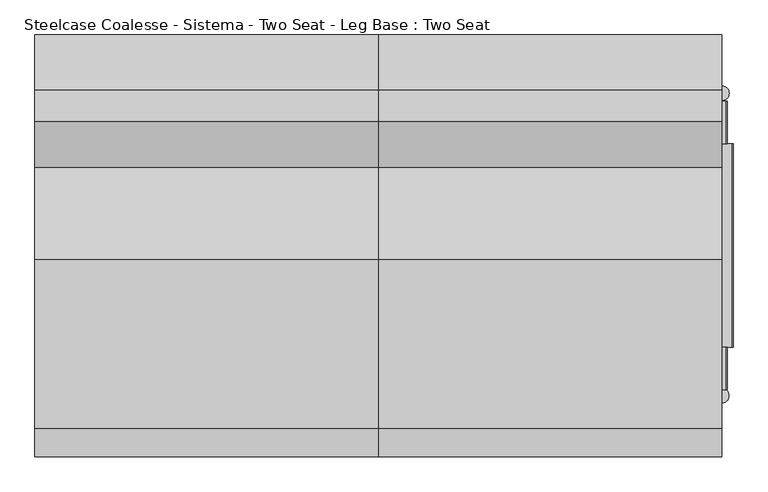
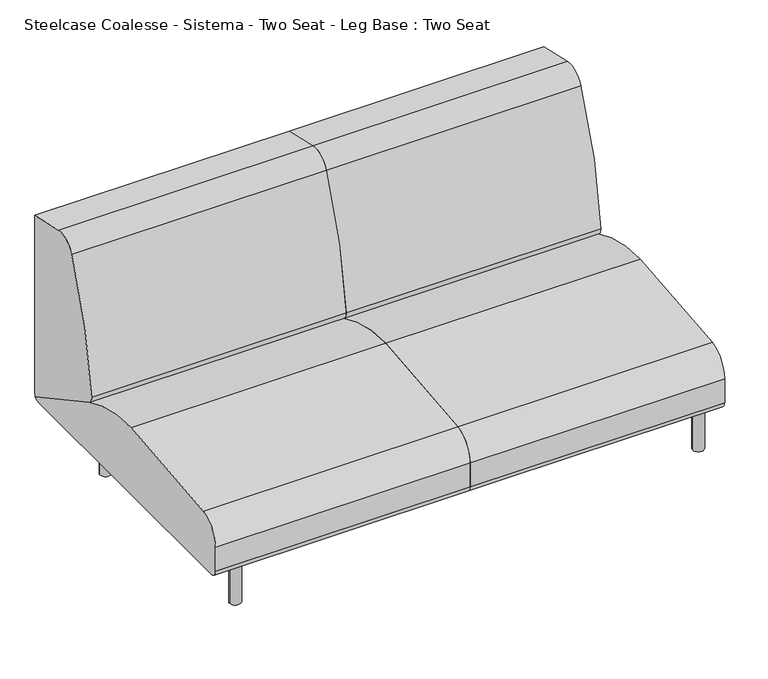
"""IFC4 building model written with IfcOpenShell, lengths in millimetres: furniture geometry, Steelcase Coalesse - Sistema - Two Seat - Leg Base : Two Seat."""

from ifc_helpers import new_model, si_unit, point, frame, frame_2d, origin, origin_with_axes, place, context, project, spatial, polyline, circle_curve, trimmed, segment, composite_curve, outline, extrude, source, transform, mapped, element, save


def steelcase_coalesse_sistema_two_seat_leg_base_two_seat_3f949230(model_context):
    return source(origin(), model_context, "Body", "SweptSolid", [
        extrude(outline(composite_curve([segment(trimmed(circle_curve(frame_2d((1123.8079447, 335.9943389)), 6.096), [point((1129.9039447, 335.9943389))], [point((1117.7119447, 335.9943389))], False, "CARTESIAN"), True, "CONTINUOUS"), segment(trimmed(circle_curve(frame_2d((1123.8079447, 335.9943389)), 6.096), [point((1117.7119447, 335.9943389))], [point((1129.9039447, 335.9943389))], False, "CARTESIAN"), True, "CONTINUOUS")], self_intersect=False)), origin_with_axes(), (0.0, 0.0, 1.0), 4.3662291),
        extrude(outline(composite_curve([segment(trimmed(circle_curve(frame_2d((1123.8079447, -327.2630889)), 6.096), [point((1129.9039447, -327.2630889))], [point((1117.7119447, -327.2630889))], False, "CARTESIAN"), True, "CONTINUOUS"), segment(trimmed(circle_curve(frame_2d((1123.8079447, -327.2630889)), 6.096), [point((1117.7119447, -327.2630889))], [point((1129.9039447, -327.2630889))], False, "CARTESIAN"), True, "CONTINUOUS")], self_intersect=False)), origin_with_axes(), (0.0, 0.0, 1.0), 4.3662291),
        extrude(outline(composite_curve([segment(polyline([(157.0399209, 1136.387797), (201.7356243, 1136.387797)]), True, "CONTINUOUS"), segment(trimmed(circle_curve(frame_2d((201.7356243, 1133.339797)), 3.048), [point((201.7356243, 1136.387797))], [point((204.7836243, 1133.339797))], False, "CARTESIAN"), True, "CONTINUOUS"), segment(polyline([(204.7836243, 1133.339797), (204.7836243, 1113.997621)]), True, "CONTINUOUS"), segment(trimmed(circle_curve(frame_2d((201.7356243, 1113.997621)), 3.048), [point((204.7836243, 1113.997621))], [point((201.7356243, 1110.949621))], False, "CARTESIAN"), True, "CONTINUOUS"), segment(polyline([(201.7356243, 1110.949621), (157.1249936, 1110.949621)]), True, "CONTINUOUS"), segment(trimmed(circle_curve(frame_2d((157.1249936, 1114.0826938)), 3.1330728), [point((157.1249936, 1110.949621))], [point((153.9919209, 1114.0826938))], False, "CARTESIAN"), True, "CONTINUOUS"), segment(polyline([(153.9919209, 1114.0826938), (153.9919209, 1133.339797)]), True, "CONTINUOUS"), segment(trimmed(circle_curve(frame_2d((157.0399209, 1133.339797)), 3.048), [point((153.9919209, 1133.339797))], [point((157.0399209, 1136.387797))], False, "CARTESIAN"), True, "CONTINUOUS")], self_intersect=False)), frame((0.0, 222.3519802, 0.0), z_axis=(0.0, 1.0, 0.0), x_axis=(0.0, 0.0, 1.0)), (0.0, 0.0, 1.0), 92.6273161),
        extrude(outline(composite_curve([segment(polyline([(157.0399209, 1136.387797), (201.7356243, 1136.387797)]), True, "CONTINUOUS"), segment(trimmed(circle_curve(frame_2d((201.7356243, 1133.339797)), 3.048), [point((201.7356243, 1136.387797))], [point((204.7836243, 1133.339797))], False, "CARTESIAN"), True, "CONTINUOUS"), segment(polyline([(204.7836243, 1133.339797), (204.7836243, 1113.997621)]), True, "CONTINUOUS"), segment(trimmed(circle_curve(frame_2d((201.7356243, 1113.997621)), 3.048), [point((204.7836243, 1113.997621))], [point((201.7356243, 1110.949621))], False, "CARTESIAN"), True, "CONTINUOUS"), segment(polyline([(201.7356243, 1110.949621), (157.1249936, 1110.949621)]), True, "CONTINUOUS"), segment(trimmed(circle_curve(frame_2d((157.1249936, 1114.0826938)), 3.1330728), [point((157.1249936, 1110.949621))], [point((153.9919209, 1114.0826938))], False, "CARTESIAN"), True, "CONTINUOUS"), segment(polyline([(153.9919209, 1114.0826938), (153.9919209, 1133.339797)]), True, "CONTINUOUS"), segment(trimmed(circle_curve(frame_2d((157.0399209, 1133.339797)), 3.048), [point((153.9919209, 1133.339797))], [point((157.0399209, 1136.387797))], False, "CARTESIAN"), True, "CONTINUOUS")], self_intersect=False)), frame((0.0, -314.9792963, 0.0), z_axis=(0.0, 1.0, 0.0), x_axis=(0.0, 0.0, 1.0)), (0.0, 0.0, 1.0), 92.6273161),
        extrude(outline(composite_curve([segment(trimmed(circle_curve(frame_2d((176.3356606, 1101.1574164)), 3.048), [point((179.3836606, 1101.1574164))], [point((176.3356606, 1098.1094164))], False, "CARTESIAN"), True, "CONTINUOUS"), segment(polyline([(176.3356606, 1098.1094164), (157.0399209, 1098.1094164)]), True, "CONTINUOUS"), segment(trimmed(circle_curve(frame_2d((157.0399209, 1101.1574164)), 3.048), [point((157.0399209, 1098.1094164))], [point((153.9919209, 1101.1574164))], False, "CARTESIAN"), True, "CONTINUOUS"), segment(polyline([(153.9919209, 1101.1574164), (153.9919209, 1145.8449721)]), True, "CONTINUOUS"), segment(trimmed(circle_curve(frame_2d((157.056462, 1145.8449721)), 3.0645412), [point((153.9919209, 1145.8449721))], [point((157.056462, 1148.9095133))], False, "CARTESIAN"), True, "CONTINUOUS"), segment(polyline([(157.056462, 1148.9095133), (176.3356606, 1148.9095133)]), True, "CONTINUOUS"), segment(trimmed(circle_curve(frame_2d((176.3356606, 1145.8615133)), 3.048), [point((176.3356606, 1148.9095133))], [point((179.3836606, 1145.8615133))], False, "CARTESIAN"), True, "CONTINUOUS"), segment(polyline([(179.3836606, 1145.8615133), (179.3836606, 1101.1574164)]), True, "CONTINUOUS")], self_intersect=False)), frame((0.0, -222.3519802, 0.0), z_axis=(0.0, 1.0, 0.0), x_axis=(0.0, 0.0, 1.0)), (0.0, 0.0, 1.0), 444.7039604),
        extrude(outline(composite_curve([segment(trimmed(circle_curve(frame_2d((1123.8079447, 332.3095741)), 16.51), [point((1140.3179447, 332.3095741))], [point((1107.2979447, 332.3095741))], False, "CARTESIAN"), True, "CONTINUOUS"), segment(trimmed(circle_curve(frame_2d((1123.8079447, 332.3095741)), 16.51), [point((1107.2979447, 332.3095741))], [point((1140.3179447, 332.3095741))], False, "CARTESIAN"), True, "CONTINUOUS")], self_intersect=False)), frame((0.0, 0.0, 4.3662291), z_axis=(0.0, 0.0, 1.0), x_axis=(1.0, 0.0, 0.0)), (0.0, 0.0, 1.0), 200.1037709),
        extrude(outline(composite_curve([segment(trimmed(circle_curve(frame_2d((1123.4110697, -327.5470741)), 16.51), [point((1139.9210697, -327.5470741))], [point((1106.9010697, -327.5470741))], False, "CARTESIAN"), True, "CONTINUOUS"), segment(trimmed(circle_curve(frame_2d((1123.4110697, -327.5470741)), 16.51), [point((1106.9010697, -327.5470741))], [point((1139.9210697, -327.5470741))], False, "CARTESIAN"), True, "CONTINUOUS")], self_intersect=False)), frame((0.0, 0.0, 4.3662291), z_axis=(0.0, 0.0, 1.0), x_axis=(1.0, 0.0, 0.0)), (0.0, 0.0, 1.0), 200.1037709),
        extrude(outline(composite_curve([segment(polyline([(459.4795619, 775.8234697), (459.4795619, 228.1929806)]), True, "CONTINUOUS"), segment(trimmed(circle_curve(frame_2d((191.495971, 228.1929806)), 267.983591), [point((459.4795619, 228.1929806))], [point((458.9860775, 211.937276))], False, "CARTESIAN"), True, "CONTINUOUS"), segment(polyline([(458.9860775, 211.937276), (183.8457951, 360.6719742)]), True, "CONTINUOUS"), segment(trimmed(circle_curve(frame_2d((195.9245701, 383.0161724)), 25.4), [point((183.8457951, 360.6719742))], [point((170.6161698, 385.1713698))], False, "CARTESIAN"), True, "CONTINUOUS"), segment(trimmed(circle_curve(frame_2d((1327.5544182, 286.6495247)), 1161.1256023), [point((170.6161698, 385.1713698))], [point((271.1088001, 768.4537592))], False, "CARTESIAN"), True, "CONTINUOUS"), segment(trimmed(circle_curve(frame_2d((326.5730192, 743.158661)), 60.96), [point((271.1088001, 768.4537592))], [point((339.9143278, 802.6408523))], False, "CARTESIAN"), True, "CONTINUOUS"), segment(polyline([(339.9143278, 802.6408523), (459.4795619, 775.8234697)]), True, "CONTINUOUS")], self_intersect=False)), frame((-374.8034773, 0.0, 0.0), z_axis=(1.0, 0.0, 0.0), x_axis=(0.0, 1.0, 0.0)), (0.0, 0.0, 1.0), 749.3),
        extrude(outline(composite_curve([segment(trimmed(circle_curve(frame_2d((-438.9184381, 226.822)), 22.352), [point((-438.9184381, 204.47))], [point((-461.2704381, 226.822))], False, "CARTESIAN"), True, "CONTINUOUS"), segment(polyline([(-461.2704381, 226.822), (-461.2704381, 301.4421993)]), True, "CONTINUOUS"), segment(trimmed(circle_curve(frame_2d((-385.0704381, 301.4421993)), 76.2), [point((-461.2704381, 301.4421993))], [point((-398.9277015, 376.3716077))], False, "CARTESIAN"), True, "CONTINUOUS"), segment(trimmed(circle_curve(frame_2d((2.2103559, -1792.6740646)), 2205.8265729), [point((-398.9277015, 376.3716077))], [point((-31.1968175, 412.8995185))], False, "CARTESIAN"), True, "CONTINUOUS"), segment(trimmed(circle_curve(frame_2d((-24.5128424, -28.3829182)), 441.333054), [point((-31.1968175, 412.8995185))], [point((184.5757008, 360.2774035))], False, "CARTESIAN"), True, "CONTINUOUS"), segment(polyline([(184.5757008, 360.2774035), (458.9860775, 211.937276)]), True, "CONTINUOUS"), segment(trimmed(circle_curve(frame_2d((442.3266309, 226.7871991)), 22.3171991), [point((458.9860775, 211.937276))], [point((442.3266309, 204.47))], False, "CARTESIAN"), True, "CONTINUOUS"), segment(polyline([(442.3266309, 204.47), (-438.9184381, 204.47)]), True, "CONTINUOUS")], self_intersect=False)), frame((-374.8034773, 0.0, 0.0), z_axis=(1.0, 0.0, 0.0), x_axis=(0.0, 1.0, 0.0)), (0.0, 0.0, 1.0), 749.3),
        extrude(outline(composite_curve([segment(polyline([(459.4795619, 775.8234697), (459.4795619, 228.1929806)]), True, "CONTINUOUS"), segment(trimmed(circle_curve(frame_2d((191.495971, 228.1929806)), 267.983591), [point((459.4795619, 228.1929806))], [point((458.9860775, 211.937276))], False, "CARTESIAN"), True, "CONTINUOUS"), segment(polyline([(458.9860775, 211.937276), (183.8457951, 360.6719742)]), True, "CONTINUOUS"), segment(trimmed(circle_curve(frame_2d((195.9245701, 383.0161724)), 25.4), [point((183.8457951, 360.6719742))], [point((170.6161698, 385.1713698))], False, "CARTESIAN"), True, "CONTINUOUS"), segment(trimmed(circle_curve(frame_2d((1327.5544182, 286.6495247)), 1161.1256023), [point((170.6161698, 385.1713698))], [point((271.1088001, 768.4537592))], False, "CARTESIAN"), True, "CONTINUOUS"), segment(trimmed(circle_curve(frame_2d((326.5730192, 743.158661)), 60.96), [point((271.1088001, 768.4537592))], [point((339.9143278, 802.6408523))], False, "CARTESIAN"), True, "CONTINUOUS"), segment(polyline([(339.9143278, 802.6408523), (459.4795619, 775.8234697)]), True, "CONTINUOUS")], self_intersect=False)), frame((374.4965227, 0.0, 0.0), z_axis=(1.0, 0.0, 0.0), x_axis=(0.0, 1.0, 0.0)), (0.0, 0.0, 1.0), 749.3),
        extrude(outline(composite_curve([segment(trimmed(circle_curve(frame_2d((-438.9184381, 226.822)), 22.352), [point((-438.9184381, 204.47))], [point((-461.2704381, 226.822))], False, "CARTESIAN"), True, "CONTINUOUS"), segment(polyline([(-461.2704381, 226.822), (-461.2704381, 301.4421993)]), True, "CONTINUOUS"), segment(trimmed(circle_curve(frame_2d((-385.0704381, 301.4421993)), 76.2), [point((-461.2704381, 301.4421993))], [point((-398.9277015, 376.3716077))], False, "CARTESIAN"), True, "CONTINUOUS"), segment(trimmed(circle_curve(frame_2d((2.2103559, -1792.6740646)), 2205.8265729), [point((-398.9277015, 376.3716077))], [point((-31.1968175, 412.8995185))], False, "CARTESIAN"), True, "CONTINUOUS"), segment(trimmed(circle_curve(frame_2d((-24.5128424, -28.3829182)), 441.333054), [point((-31.1968175, 412.8995185))], [point((184.5757008, 360.2774035))], False, "CARTESIAN"), True, "CONTINUOUS"), segment(polyline([(184.5757008, 360.2774035), (458.9860775, 211.937276)]), True, "CONTINUOUS"), segment(trimmed(circle_curve(frame_2d((442.3266309, 226.7871991)), 22.3171991), [point((458.9860775, 211.937276))], [point((442.3266309, 204.47))], False, "CARTESIAN"), True, "CONTINUOUS"), segment(polyline([(442.3266309, 204.47), (-438.9184381, 204.47)]), True, "CONTINUOUS")], self_intersect=False)), frame((374.4965227, 0.0, 0.0), z_axis=(1.0, 0.0, 0.0), x_axis=(0.0, 1.0, 0.0)), (0.0, 0.0, 1.0), 749.3),
        extrude(outline(composite_curve([segment(trimmed(circle_curve(frame_2d((-240.1834773, 335.9943389)), 6.096), [point((-246.2794773, 335.9943389))], [point((-234.0874773, 335.9943389))], False, "CARTESIAN"), True, "CONTINUOUS"), segment(trimmed(circle_curve(frame_2d((-240.1834773, 335.9943389)), 6.096), [point((-234.0874773, 335.9943389))], [point((-246.2794773, 335.9943389))], False, "CARTESIAN"), True, "CONTINUOUS")], self_intersect=False)), origin_with_axes(), (0.0, 0.0, 1.0), 4.3662291),
        extrude(outline(composite_curve([segment(trimmed(circle_curve(frame_2d((-240.1834773, -327.2630889)), 6.096), [point((-246.2794773, -327.2630889))], [point((-234.0874773, -327.2630889))], False, "CARTESIAN"), True, "CONTINUOUS"), segment(trimmed(circle_curve(frame_2d((-240.1834773, -327.2630889)), 6.096), [point((-234.0874773, -327.2630889))], [point((-246.2794773, -327.2630889))], False, "CARTESIAN"), True, "CONTINUOUS")], self_intersect=False)), origin_with_axes(), (0.0, 0.0, 1.0), 4.3662291),
        extrude(outline(composite_curve([segment(trimmed(circle_curve(frame_2d((157.0399209, -249.7153296)), 3.048), [point((157.0399209, -252.7633296))], [point((153.9919209, -249.7153296))], False, "CARTESIAN"), True, "CONTINUOUS"), segment(polyline([(153.9919209, -249.7153296), (153.9919209, -230.4582264)]), True, "CONTINUOUS"), segment(trimmed(circle_curve(frame_2d((157.1249936, -230.4582264)), 3.1330728), [point((153.9919209, -230.4582264))], [point((157.1249936, -227.3251537))], False, "CARTESIAN"), True, "CONTINUOUS"), segment(polyline([(157.1249936, -227.3251537), (201.7356243, -227.3251537)]), True, "CONTINUOUS"), segment(trimmed(circle_curve(frame_2d((201.7356243, -230.3731537)), 3.048), [point((201.7356243, -227.3251537))], [point((204.7836243, -230.3731537))], False, "CARTESIAN"), True, "CONTINUOUS"), segment(polyline([(204.7836243, -230.3731537), (204.7836243, -249.7153296)]), True, "CONTINUOUS"), segment(trimmed(circle_curve(frame_2d((201.7356243, -249.7153296)), 3.048), [point((204.7836243, -249.7153296))], [point((201.7356243, -252.7633296))], False, "CARTESIAN"), True, "CONTINUOUS"), segment(polyline([(201.7356243, -252.7633296), (157.0399209, -252.7633296)]), True, "CONTINUOUS")], self_intersect=False)), frame((0.0, 222.3519802, 0.0), z_axis=(0.0, 1.0, 0.0), x_axis=(0.0, 0.0, 1.0)), (0.0, 0.0, 1.0), 92.6273161),
        extrude(outline(composite_curve([segment(trimmed(circle_curve(frame_2d((157.0399209, -249.7153296)), 3.048), [point((157.0399209, -252.7633296))], [point((153.9919209, -249.7153296))], False, "CARTESIAN"), True, "CONTINUOUS"), segment(polyline([(153.9919209, -249.7153296), (153.9919209, -230.4582264)]), True, "CONTINUOUS"), segment(trimmed(circle_curve(frame_2d((157.1249936, -230.4582264)), 3.1330728), [point((153.9919209, -230.4582264))], [point((157.1249936, -227.3251537))], False, "CARTESIAN"), True, "CONTINUOUS"), segment(polyline([(157.1249936, -227.3251537), (201.7356243, -227.3251537)]), True, "CONTINUOUS"), segment(trimmed(circle_curve(frame_2d((201.7356243, -230.3731537)), 3.048), [point((201.7356243, -227.3251537))], [point((204.7836243, -230.3731537))], False, "CARTESIAN"), True, "CONTINUOUS"), segment(polyline([(204.7836243, -230.3731537), (204.7836243, -249.7153296)]), True, "CONTINUOUS"), segment(trimmed(circle_curve(frame_2d((201.7356243, -249.7153296)), 3.048), [point((204.7836243, -249.7153296))], [point((201.7356243, -252.7633296))], False, "CARTESIAN"), True, "CONTINUOUS"), segment(polyline([(201.7356243, -252.7633296), (157.0399209, -252.7633296)]), True, "CONTINUOUS")], self_intersect=False)), frame((0.0, -314.9792963, 0.0), z_axis=(0.0, 1.0, 0.0), x_axis=(0.0, 0.0, 1.0)), (0.0, 0.0, 1.0), 92.6273161),
        extrude(outline(composite_curve([segment(polyline([(179.3836606, -217.532949), (179.3836606, -262.2370459)]), True, "CONTINUOUS"), segment(trimmed(circle_curve(frame_2d((176.3356606, -262.2370459)), 3.048), [point((179.3836606, -262.2370459))], [point((176.3356606, -265.2850459))], False, "CARTESIAN"), True, "CONTINUOUS"), segment(polyline([(176.3356606, -265.2850459), (157.056462, -265.2850459)]), True, "CONTINUOUS"), segment(trimmed(circle_curve(frame_2d((157.056462, -262.2205047)), 3.0645412), [point((157.056462, -265.2850459))], [point((153.9919209, -262.2205047))], False, "CARTESIAN"), True, "CONTINUOUS"), segment(polyline([(153.9919209, -262.2205047), (153.9919209, -217.532949)]), True, "CONTINUOUS"), segment(trimmed(circle_curve(frame_2d((157.0399209, -217.532949)), 3.048), [point((153.9919209, -217.532949))], [point((157.0399209, -214.484949))], False, "CARTESIAN"), True, "CONTINUOUS"), segment(polyline([(157.0399209, -214.484949), (176.3356606, -214.484949)]), True, "CONTINUOUS"), segment(trimmed(circle_curve(frame_2d((176.3356606, -217.532949)), 3.048), [point((176.3356606, -214.484949))], [point((179.3836606, -217.532949))], False, "CARTESIAN"), True, "CONTINUOUS")], self_intersect=False)), frame((0.0, -222.3519802, 0.0), z_axis=(0.0, 1.0, 0.0), x_axis=(0.0, 0.0, 1.0)), (0.0, 0.0, 1.0), 444.7039604),
        extrude(outline(composite_curve([segment(trimmed(circle_curve(frame_2d((-240.1834773, 332.3095741)), 16.51), [point((-256.6934773, 332.3095741))], [point((-223.6734773, 332.3095741))], False, "CARTESIAN"), True, "CONTINUOUS"), segment(trimmed(circle_curve(frame_2d((-240.1834773, 332.3095741)), 16.51), [point((-223.6734773, 332.3095741))], [point((-256.6934773, 332.3095741))], False, "CARTESIAN"), True, "CONTINUOUS")], self_intersect=False)), frame((0.0, 0.0, 4.3662291), z_axis=(0.0, 0.0, 1.0), x_axis=(1.0, 0.0, 0.0)), (0.0, 0.0, 1.0), 200.1037709),
        extrude(outline(composite_curve([segment(trimmed(circle_curve(frame_2d((-239.7866023, -327.5470741)), 16.51), [point((-256.2966023, -327.5470741))], [point((-223.2766023, -327.5470741))], False, "CARTESIAN"), True, "CONTINUOUS"), segment(trimmed(circle_curve(frame_2d((-239.7866023, -327.5470741)), 16.51), [point((-223.2766023, -327.5470741))], [point((-256.2966023, -327.5470741))], False, "CARTESIAN"), True, "CONTINUOUS")], self_intersect=False)), frame((0.0, 0.0, 4.3662291), z_axis=(0.0, 0.0, 1.0), x_axis=(1.0, 0.0, 0.0)), (0.0, 0.0, 1.0), 200.1037709),
    ])


if __name__ == "__main__":
    model = new_model("IFC4")
    model_context = context("Model", 3, world=origin())
    ifc_project = project(units=[si_unit("LENGTHUNIT", "METRE", prefix="MILLI")], contexts=[model_context])
    site = spatial("IfcSite", under=ifc_project)
    building = spatial("IfcBuilding", under=site)
    placement = place(None, origin())
    steelcase_coalesse_sistema_two_seat_leg_base_two_seat_shape = steelcase_coalesse_sistema_two_seat_leg_base_two_seat_3f949230(model_context)
    element("IfcFurniture", 1, ObjectType="Steelcase Coalesse - Sistema - Two Seat - Leg Base : Two Seat", at=placement, inside=building, context=model_context, shape_type="MappedRepresentation", body=[
        mapped(steelcase_coalesse_sistema_two_seat_leg_base_two_seat_shape, transform((0.0, 0.0, 0.0), x_axis=(1.0, 0.0, 0.0), y_axis=(0.0, 1.0, 0.0), z_axis=(0.0, 0.0, 1.0))),
    ])
    save(model, "model.ifc")
